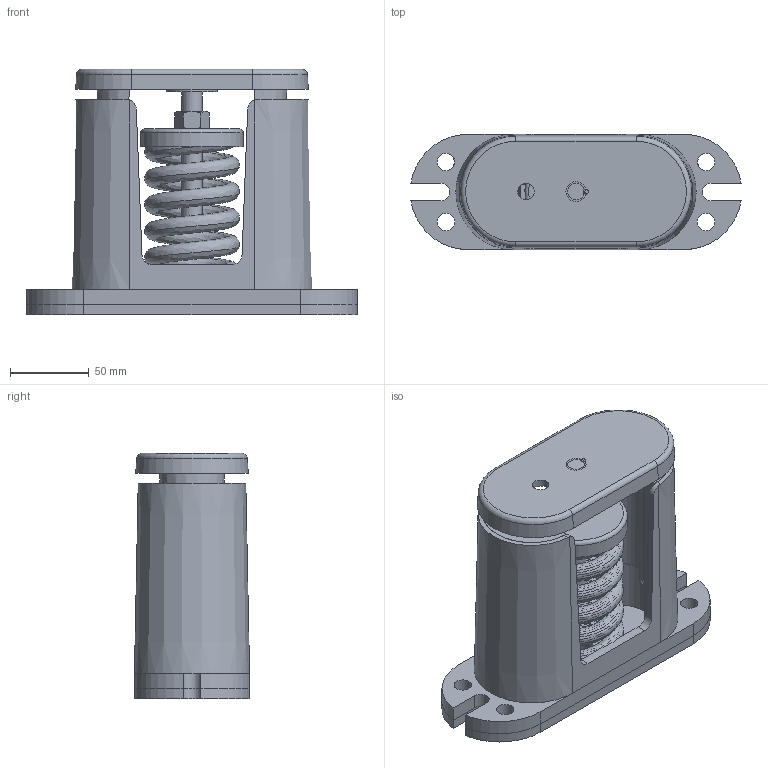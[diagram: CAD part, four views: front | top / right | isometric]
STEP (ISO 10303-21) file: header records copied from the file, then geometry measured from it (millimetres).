
FILE_DESCRIPTION(/* description */ (''),/* implementation_level */ '2;1');
FILE_NAME(/* name */ 'C:\001_Work\Designs\C MOUNTS\CI-B, B2\CI-B-1650.stp',/* time_stamp */ '2015-12-10T12:46:59-05:00',/* author */ ('rramoutar'),/* organization */ ('Mason Industries Inc.'),/* preprocessor_version */ 'ST-DEVELOPER v15.6',/* originating_system */ 'Autodesk Inventor 2015',/* authorisation */ '');
FILE_SCHEMA (('CONFIG_CONTROL_DESIGN'));
Length unit declared in the file: inch
Products named in the file (1): CI-B-1650
Bounding box: 209.55 x 73.03 x 155.57 mm (x, y, z)
Volume: 658455.2 mm3; surface area: 225030.5 mm2
Topology: 1 solids, 2 shells, 191 faces, 481 edges, 308 vertices
Faces by surface type: plane 87, cylinder 53, bspline 24, cone 23, torus 4
Full cylindrical faces by diameter (mm): 10.592 x1, 11.112 x8, 12.7 x2, 16.669 x1, 25.4 x2, 31.75 x1, 61.119 x1, 64.914 x1
Entity records: 15470 total; most frequent: CARTESIAN_POINT 10924, ORIENTED_EDGE 902, DIRECTION 839, EDGE_CURVE 451, AXIS2_PLACEMENT_3D 319, VERTEX_POINT 300, EDGE_LOOP 239, LINE 201
